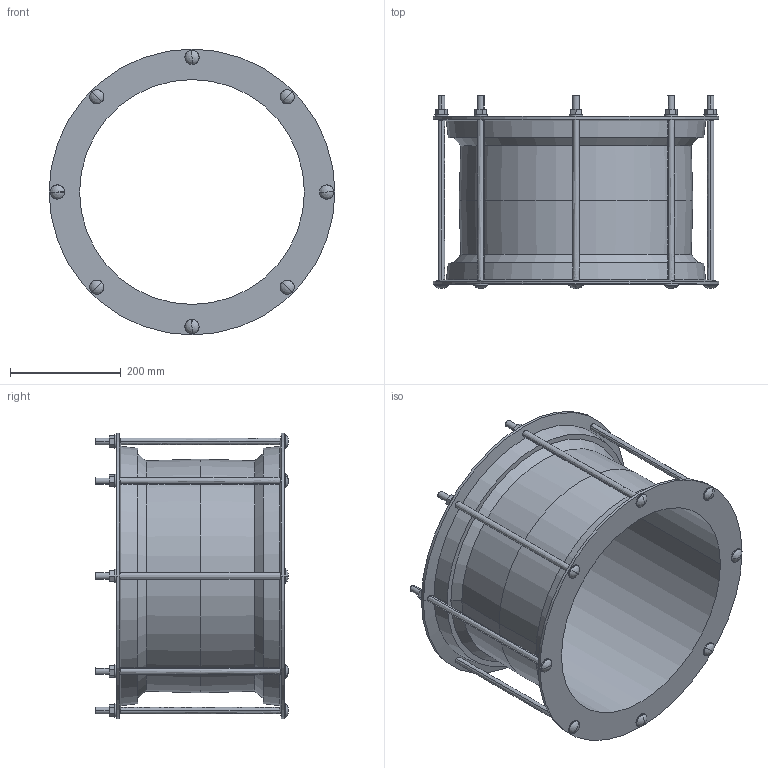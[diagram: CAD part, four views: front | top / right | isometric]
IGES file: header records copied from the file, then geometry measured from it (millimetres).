
Start section:  PTC IGES file: 386_403.igs
Global section: file name: 386_403.igs; native system: Creo Parametric by PTC Inc.; preprocessor: 2016130; author: mfairey; organization: Unknown; date: 20181218.112616; units: millimetre
Bounding box: 515 x 348 x 515 mm (x, y, z)
Surface area: 1161288.2 mm2 (no closed solid volume)
Topology: 0 solids, 0 shells, 178 faces, 848 edges, 832 vertices
Faces by surface type: revolution 102, bspline 76
